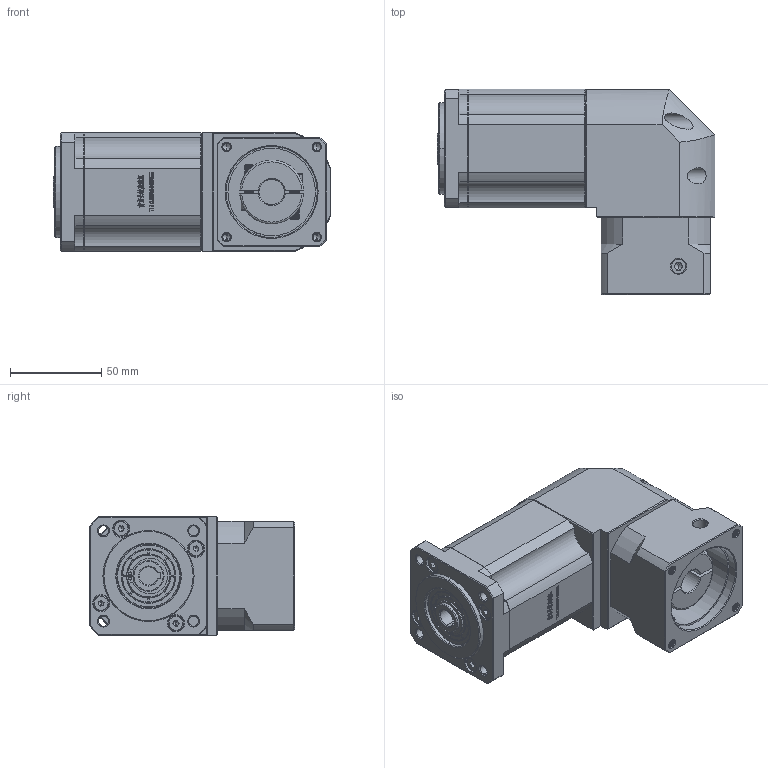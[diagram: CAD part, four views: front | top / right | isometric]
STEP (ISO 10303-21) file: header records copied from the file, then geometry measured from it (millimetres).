
FILE_DESCRIPTION (( 'STEP AP214' ), '1' );
FILE_NAME ('ZBR60-K10-L3-14-50-70-M5.STEP', '2022-04-19T08:56:27', ( '' ), ( 'Microsoft' ), 'SwSTEP 2.0', 'SolidWorks 2016', '' );
FILE_SCHEMA (( 'AUTOMOTIVE_DESIGN' ));
Length unit declared in the file: millimetre
Products named in the file (1): ZBR60-K10-L3-14-50-70-M5
Bounding box: 152.5 x 112.7 x 65 mm (x, y, z)
Volume: 639204.1 mm3; surface area: 84757.6 mm2
Topology: 5 solids, 5 shells, 2790 faces, 7539 edges, 4888 vertices
Faces by surface type: plane 1469, bspline 584, cylinder 393, cone 324, torus 20
Entity records: 149457 total; most frequent: CARTESIAN_POINT 52766, ORIENTED_EDGE 15022, DIRECTION 11477, EDGE_CURVE 7511, VECTOR 5007, LINE 5007, VERTEX_POINT 4888, AXIS2_PLACEMENT_3D 3235
